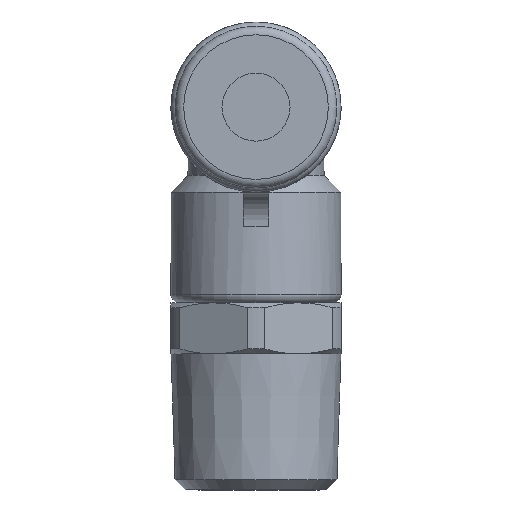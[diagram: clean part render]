
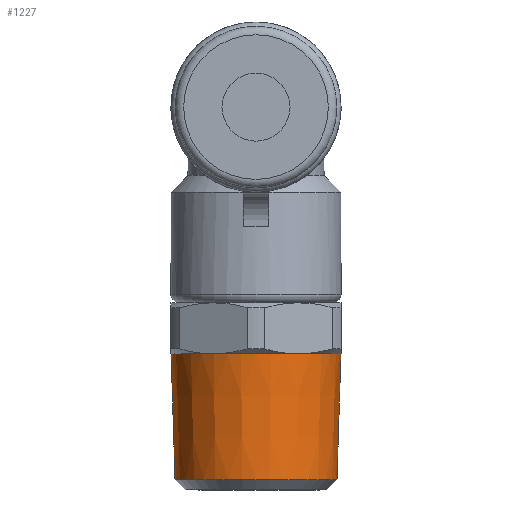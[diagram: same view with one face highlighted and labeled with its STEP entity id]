
A CAD part, left-side view. The second image highlights one B-rep face of the part: STEP entity #1227.
In plain terms, the highlighted conical face has half-angle 1.79 degrees and reference radius 4.864 mm.
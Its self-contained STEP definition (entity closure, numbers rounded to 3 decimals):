
#54=FACE_BOUND($,#354,.T.);
#258=FACE_OUTER_BOUND($,#353,.T.);
#353=EDGE_LOOP($,(#977));
#354=EDGE_LOOP($,(#978));
#450=CIRCLE($,#1348,4.758);
#455=CIRCLE($,#1362,4.989);
#587=VERTEX_POINT($,#2097);
#597=VERTEX_POINT($,#2156);
#726=EDGE_CURVE($,#587,#587,#450,.T.);
#741=EDGE_CURVE($,#597,#597,#455,.F.);
#977=ORIENTED_EDGE($,*,*,#741,.F.);
#978=ORIENTED_EDGE($,*,*,#726,.F.);
#1176=CONICAL_SURFACE($,#1361,4.864,1.79);
#1227=ADVANCED_FACE($,(#258,#54),#1176,.T.);
#1348=AXIS2_PLACEMENT_3D($,#2098,#1620,#1621);
#1361=AXIS2_PLACEMENT_3D($,#2155,#1648,#1649);
#1362=AXIS2_PLACEMENT_3D($,#2157,#1650,#1651);
#1620=DIRECTION('center_axis',(0.,0.,
-1.));
#1621=DIRECTION('ref_axis',(1.,0.,0.));
#1648=DIRECTION('center_axis',(0.,0.,
1.));
#1649=DIRECTION('ref_axis',(1.,0.,0.));
#1650=DIRECTION('center_axis',(0.,0.,
-1.));
#1651=DIRECTION('ref_axis',(1.,0.,0.));
#2097=CARTESIAN_POINT('',(0.,4.758,-21.9));
#2098=CARTESIAN_POINT('Origin',(0.,0.,
-21.9));
#2155=CARTESIAN_POINT('Origin',(0.,0.,
-18.5));
#2156=CARTESIAN_POINT('',(0.,4.989,-14.5));
#2157=CARTESIAN_POINT('Origin',(0.,0.,-14.5));
